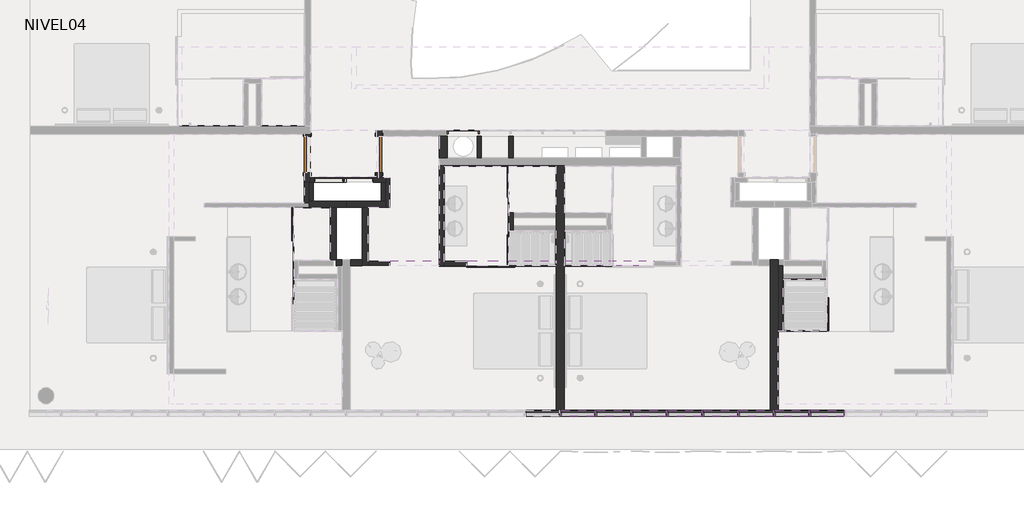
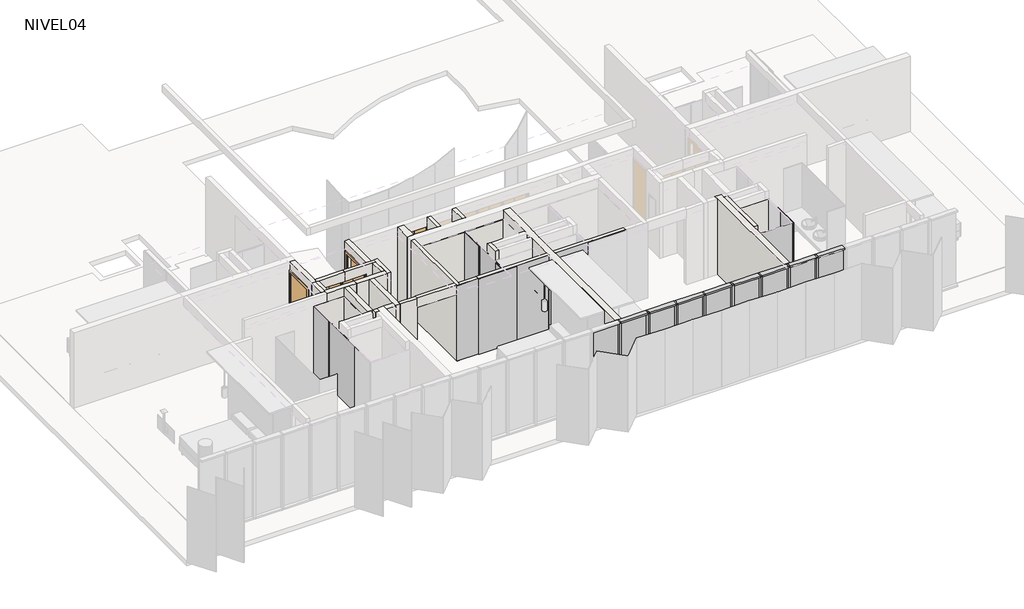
# One storey, part 2 of 8: 38 walls, 25 members, 20 plates, 5 doors.
"""IFC4 building model written with IfcOpenShell, lengths in millimetres."""

from ifc_helpers import new_model, si_unit, frame, origin, place, context, project, spatial, polyline, outline, extrude, faceted_brep, transform, mapped, element, save
from components import m_single_flush_910x_224_a4f79d59, m_single_flush_910x_224_d199ccfa, puerta_closet_shaft_75_x_232cm_9b8c6cb1, puerta_closet_shaft_75_x_232cm_f7ce9964, puerta_closet_shaft_80_x_232cm_003f94e8, rectangular_mullion_50_x_150mm_324a6438, rectangular_mullion_50_x_150mm_33c2bde1, panel_corredera_cr_panel_corredera_e449a94a, panel_corredera_cr_panel_corredera_4796692a, panel_corredera_cr_panel_corredera_42e60b83, panel_corredera_cr_panel_corredera_db6cee18, panel_corredera_cr_panel_corredera_0b5135b5, system_panel_cr_shower_b944c943, system_panel_cr_shower_306accba, system_panel_cr_shower_91ed7f58, system_panel_cr_shower_c062e60c, system_panel_cr_shower_685ec66b, system_panel_cr_shower_d0c7b907, system_panel_glazed_6ccc6dc1

model = new_model("IFC4")

# Units and contexts
model_context = context("Model", 3, world=origin())
ifc_project = project(units=[si_unit("LENGTHUNIT", "METRE", prefix="MILLI")], contexts=[model_context])

# Site, building, storey
site = spatial("IfcSite", under=ifc_project)
building = spatial("IfcBuilding", under=site)
storey = spatial("IfcBuildingStorey", under=building, Name="NIVEL04", Elevation=7940.0)

# Doors
placement = place(None, origin())
m_single_flush_910x_224_shape = m_single_flush_910x_224_a4f79d59(model_context)
element("IfcDoor", 1, ObjectType="M_Single-Flush : 910x 224", at=placement, inside=storey, context=model_context, shape_type="MappedRepresentation", body=[
    mapped(m_single_flush_910x_224_shape, transform((-13568.5934748, -883.5860759, 7940.0), x_axis=(0.0, 1.0, 0.0), y_axis=(-1.0, 0.0, 0.0), z_axis=(0.0, 0.0, 1.0))),
])
m_single_flush_910x_224_2_shape = m_single_flush_910x_224_d199ccfa(model_context)
element("IfcDoor", 2, ObjectType="M_Single-Flush : 910x 224", at=placement, inside=storey, context=model_context, shape_type="MappedRepresentation", body=[
    mapped(m_single_flush_910x_224_2_shape, transform((-11758.5934748, -883.5860759, 7940.0), x_axis=(0.0, 1.0, 0.0), y_axis=(-1.0, 0.0, 0.0), z_axis=(0.0, 0.0, 1.0))),
])
puerta_closet_shaft_75_x_232cm_shape = puerta_closet_shaft_75_x_232cm_9b8c6cb1(model_context)
element("IfcDoor", 3, ObjectType="PUERTA CLOSET SHAFT : 75 x 232cm", at=placement, inside=storey, context=model_context, shape_type="MappedRepresentation", body=[
    mapped(puerta_closet_shaft_75_x_232cm_shape, transform((-11887.061904, -1521.0860759, 7940.0), x_axis=(1.0, 0.0, 0.0), y_axis=(0.0, 1.0, 0.0), z_axis=(0.0, 0.0, 1.0))),
])
puerta_closet_shaft_75_x_232cm_2_shape = puerta_closet_shaft_75_x_232cm_f7ce9964(model_context)
element("IfcDoor", 4, ObjectType="PUERTA CLOSET SHAFT : 75 x 232cm", at=placement, inside=storey, context=model_context, shape_type="MappedRepresentation", body=[
    mapped(puerta_closet_shaft_75_x_232cm_2_shape, transform((-13420.1250457, -1521.0860759, 7940.0), x_axis=(-1.0, 0.0, 0.0), y_axis=(0.0, -1.0, 0.0), z_axis=(0.0, 0.0, 1.0))),
])
puerta_closet_shaft_80_x_232cm_shape = puerta_closet_shaft_80_x_232cm_003f94e8(model_context)
element("IfcDoor", 5, ObjectType="PUERTA CLOSET SHAFT : 80 x 232cm", at=placement, inside=storey, context=model_context, shape_type="MappedRepresentation", body=[
    mapped(puerta_closet_shaft_80_x_232cm_shape, transform((-8492.061904, -341.0860759, 7940.0), x_axis=(1.0, 0.0, 0.0), y_axis=(0.0, 1.0, 0.0), z_axis=(0.0, 0.0, 1.0))),
])

# Members
rectangular_mullion_50_x_150mm_shape = rectangular_mullion_50_x_150mm_324a6438(model_context)
element("IfcMember", 6, ObjectType="Rectangular Mullion : 50 x 150mm", at=placement, inside=storey, context=model_context, shape_type="MappedRepresentation", body=[
    mapped(rectangular_mullion_50_x_150mm_shape, transform((-858.5934748, -7416.0860759, 10490.0), x_axis=(0.0, 0.0, 1.0), y_axis=(0.0, 1.0, 0.0), z_axis=(-1.0, 0.0, 0.0))),
])
element("IfcMember", 7, ObjectType="Rectangular Mullion : 50 x 150mm", at=placement, inside=storey, context=model_context, shape_type="MappedRepresentation", body=[
    mapped(rectangular_mullion_50_x_150mm_shape, transform((-1758.5934748, -7416.0860759, 10490.0), x_axis=(0.0, 0.0, 1.0), y_axis=(0.0, 1.0, 0.0), z_axis=(-1.0, 0.0, 0.0))),
])
element("IfcMember", 8, ObjectType="Rectangular Mullion : 50 x 150mm", at=placement, inside=storey, context=model_context, shape_type="MappedRepresentation", body=[
    mapped(rectangular_mullion_50_x_150mm_shape, transform((-2658.5934748, -7416.0860759, 10490.0), x_axis=(0.0, 0.0, 1.0), y_axis=(0.0, 1.0, 0.0), z_axis=(-1.0, 0.0, 0.0))),
])
element("IfcMember", 9, ObjectType="Rectangular Mullion : 50 x 150mm", at=placement, inside=storey, context=model_context, shape_type="MappedRepresentation", body=[
    mapped(rectangular_mullion_50_x_150mm_shape, transform((-3558.5934748, -7416.0860759, 10490.0), x_axis=(0.0, 0.0, 1.0), y_axis=(0.0, 1.0, 0.0), z_axis=(-1.0, 0.0, 0.0))),
])
element("IfcMember", 10, ObjectType="Rectangular Mullion : 50 x 150mm", at=placement, inside=storey, context=model_context, shape_type="MappedRepresentation", body=[
    mapped(rectangular_mullion_50_x_150mm_shape, transform((-4458.5934748, -7416.0860759, 10490.0), x_axis=(0.0, 0.0, 1.0), y_axis=(0.0, 1.0, 0.0), z_axis=(-1.0, 0.0, 0.0))),
])
element("IfcMember", 11, ObjectType="Rectangular Mullion : 50 x 150mm", at=placement, inside=storey, context=model_context, shape_type="MappedRepresentation", body=[
    mapped(rectangular_mullion_50_x_150mm_shape, transform((-5358.5934748, -7416.0860759, 10490.0), x_axis=(0.0, 0.0, 1.0), y_axis=(0.0, 1.0, 0.0), z_axis=(-1.0, 0.0, 0.0))),
])
element("IfcMember", 12, ObjectType="Rectangular Mullion : 50 x 150mm", at=placement, inside=storey, context=model_context, shape_type="MappedRepresentation", body=[
    mapped(rectangular_mullion_50_x_150mm_shape, transform((-6258.5934748, -7416.0860759, 10490.0), x_axis=(0.0, 0.0, 1.0), y_axis=(0.0, 1.0, 0.0), z_axis=(-1.0, 0.0, 0.0))),
])
element("IfcMember", 13, ObjectType="Rectangular Mullion : 50 x 150mm", at=placement, inside=storey, context=model_context, shape_type="MappedRepresentation", body=[
    mapped(rectangular_mullion_50_x_150mm_shape, transform((-7158.5934748, -7416.0860759, 10490.0), x_axis=(0.0, 0.0, 1.0), y_axis=(0.0, 1.0, 0.0), z_axis=(-1.0, 0.0, 0.0))),
])
element("IfcMember", 14, ObjectType="Rectangular Mullion : 50 x 150mm", at=placement, inside=storey, context=model_context, shape_type="MappedRepresentation", body=[
    mapped(rectangular_mullion_50_x_150mm_shape, transform((-8.5934748, -7416.0860759, 7920.0), x_axis=(0.0, 0.0, -1.0), y_axis=(0.0, 1.0, 0.0), z_axis=(1.0, 0.0, 0.0))),
])
element("IfcMember", 15, ObjectType="Rectangular Mullion : 50 x 150mm", at=placement, inside=storey, context=model_context, shape_type="MappedRepresentation", body=[
    mapped(rectangular_mullion_50_x_150mm_shape, transform((-908.5934748, -7416.0860759, 7920.0), x_axis=(0.0, 0.0, -1.0), y_axis=(0.0, 1.0, 0.0), z_axis=(1.0, 0.0, 0.0))),
])
element("IfcMember", 16, ObjectType="Rectangular Mullion : 50 x 150mm", at=placement, inside=storey, context=model_context, shape_type="MappedRepresentation", body=[
    mapped(rectangular_mullion_50_x_150mm_shape, transform((-1808.5934748, -7416.0860759, 7920.0), x_axis=(0.0, 0.0, -1.0), y_axis=(0.0, 1.0, 0.0), z_axis=(1.0, 0.0, 0.0))),
])
element("IfcMember", 17, ObjectType="Rectangular Mullion : 50 x 150mm", at=placement, inside=storey, context=model_context, shape_type="MappedRepresentation", body=[
    mapped(rectangular_mullion_50_x_150mm_shape, transform((-2708.5934748, -7416.0860759, 7920.0), x_axis=(0.0, 0.0, -1.0), y_axis=(0.0, 1.0, 0.0), z_axis=(1.0, 0.0, 0.0))),
])
element("IfcMember", 18, ObjectType="Rectangular Mullion : 50 x 150mm", at=placement, inside=storey, context=model_context, shape_type="MappedRepresentation", body=[
    mapped(rectangular_mullion_50_x_150mm_shape, transform((-3608.5934748, -7416.0860759, 7920.0), x_axis=(0.0, 0.0, -1.0), y_axis=(0.0, 1.0, 0.0), z_axis=(1.0, 0.0, 0.0))),
])
element("IfcMember", 19, ObjectType="Rectangular Mullion : 50 x 150mm", at=placement, inside=storey, context=model_context, shape_type="MappedRepresentation", body=[
    mapped(rectangular_mullion_50_x_150mm_shape, transform((-4508.5934748, -7416.0860759, 7920.0), x_axis=(0.0, 0.0, -1.0), y_axis=(0.0, 1.0, 0.0), z_axis=(1.0, 0.0, 0.0))),
])
element("IfcMember", 20, ObjectType="Rectangular Mullion : 50 x 150mm", at=placement, inside=storey, context=model_context, shape_type="MappedRepresentation", body=[
    mapped(rectangular_mullion_50_x_150mm_shape, transform((-5408.5934748, -7416.0860759, 7920.0), x_axis=(0.0, 0.0, -1.0), y_axis=(0.0, 1.0, 0.0), z_axis=(1.0, 0.0, 0.0))),
])
element("IfcMember", 21, ObjectType="Rectangular Mullion : 50 x 150mm", at=placement, inside=storey, context=model_context, shape_type="MappedRepresentation", body=[
    mapped(rectangular_mullion_50_x_150mm_shape, transform((-6308.5934748, -7416.0860759, 7920.0), x_axis=(0.0, 0.0, -1.0), y_axis=(0.0, 1.0, 0.0), z_axis=(1.0, 0.0, 0.0))),
])
element("IfcMember", 22, ObjectType="Rectangular Mullion : 50 x 150mm", at=placement, inside=storey, context=model_context, shape_type="MappedRepresentation", body=[
    mapped(rectangular_mullion_50_x_150mm_shape, transform((-7208.5934748, -7416.0860759, 7920.0), x_axis=(0.0, 0.0, -1.0), y_axis=(0.0, 1.0, 0.0), z_axis=(1.0, 0.0, 0.0))),
])
rectangular_mullion_50_x_150mm_2_shape = rectangular_mullion_50_x_150mm_33c2bde1(model_context)
element("IfcMember", 23, ObjectType="Rectangular Mullion : 50 x 150mm", at=placement, inside=storey, context=model_context, shape_type="MappedRepresentation", body=[
    mapped(rectangular_mullion_50_x_150mm_2_shape, transform((-883.5934748, -7416.0860759, 7920.0), x_axis=(-1.0, 0.0, 0.0), y_axis=(0.0, 1.0, 0.0), z_axis=(0.0, 0.0, -1.0))),
])
element("IfcMember", 24, ObjectType="Rectangular Mullion : 50 x 150mm", at=placement, inside=storey, context=model_context, shape_type="MappedRepresentation", body=[
    mapped(rectangular_mullion_50_x_150mm_2_shape, transform((-1783.5934748, -7416.0860759, 7920.0), x_axis=(-1.0, 0.0, 0.0), y_axis=(0.0, 1.0, 0.0), z_axis=(0.0, 0.0, -1.0))),
])
element("IfcMember", 25, ObjectType="Rectangular Mullion : 50 x 150mm", at=placement, inside=storey, context=model_context, shape_type="MappedRepresentation", body=[
    mapped(rectangular_mullion_50_x_150mm_2_shape, transform((-2683.5934748, -7416.0860759, 7920.0), x_axis=(-1.0, 0.0, 0.0), y_axis=(0.0, 1.0, 0.0), z_axis=(0.0, 0.0, -1.0))),
])
element("IfcMember", 26, ObjectType="Rectangular Mullion : 50 x 150mm", at=placement, inside=storey, context=model_context, shape_type="MappedRepresentation", body=[
    mapped(rectangular_mullion_50_x_150mm_2_shape, transform((-3583.5934748, -7416.0860759, 7920.0), x_axis=(-1.0, 0.0, 0.0), y_axis=(0.0, 1.0, 0.0), z_axis=(0.0, 0.0, -1.0))),
])
element("IfcMember", 27, ObjectType="Rectangular Mullion : 50 x 150mm", at=placement, inside=storey, context=model_context, shape_type="MappedRepresentation", body=[
    mapped(rectangular_mullion_50_x_150mm_2_shape, transform((-4483.5934748, -7416.0860759, 7920.0), x_axis=(-1.0, 0.0, 0.0), y_axis=(0.0, 1.0, 0.0), z_axis=(0.0, 0.0, -1.0))),
])
element("IfcMember", 28, ObjectType="Rectangular Mullion : 50 x 150mm", at=placement, inside=storey, context=model_context, shape_type="MappedRepresentation", body=[
    mapped(rectangular_mullion_50_x_150mm_2_shape, transform((-5383.5934748, -7416.0860759, 7920.0), x_axis=(-1.0, 0.0, 0.0), y_axis=(0.0, 1.0, 0.0), z_axis=(0.0, 0.0, -1.0))),
])
element("IfcMember", 29, ObjectType="Rectangular Mullion : 50 x 150mm", at=placement, inside=storey, context=model_context, shape_type="MappedRepresentation", body=[
    mapped(rectangular_mullion_50_x_150mm_2_shape, transform((-6283.5934748, -7416.0860759, 7920.0), x_axis=(-1.0, 0.0, 0.0), y_axis=(0.0, 1.0, 0.0), z_axis=(0.0, 0.0, -1.0))),
])
element("IfcMember", 30, ObjectType="Rectangular Mullion : 50 x 150mm", at=placement, inside=storey, context=model_context, shape_type="MappedRepresentation", body=[
    mapped(rectangular_mullion_50_x_150mm_2_shape, transform((-7183.5934748, -7416.0860759, 7920.0), x_axis=(-1.0, 0.0, 0.0), y_axis=(0.0, 1.0, 0.0), z_axis=(0.0, 0.0, -1.0))),
])

# Plates
panel_corredera_cr_panel_corredera_shape = panel_corredera_cr_panel_corredera_e449a94a(model_context)
element("IfcPlate", 31, ObjectType="PANEL CORREDERA : CR_PANEL CORREDERA", at=placement, inside=storey, context=model_context, shape_type="MappedRepresentation", body=[
    mapped(panel_corredera_cr_panel_corredera_shape, transform((-13913.6434748, -2560.8259695, 7940.0), x_axis=(0.0, -1.0, 0.0), y_axis=(1.0, 0.0, 0.0), z_axis=(0.0, 0.0, 1.0))),
])
panel_corredera_cr_panel_corredera_2_shape = panel_corredera_cr_panel_corredera_4796692a(model_context)
element("IfcPlate", 32, ObjectType="PANEL CORREDERA : CR_PANEL CORREDERA", at=placement, inside=storey, context=model_context, shape_type="MappedRepresentation", body=[
    mapped(panel_corredera_cr_panel_corredera_2_shape, transform((-8483.5947993, -3371.0862189, 7940.0), x_axis=(0.0, 1.0, 0.0), y_axis=(-1.0, 0.0, 0.0), z_axis=(0.0, 0.0, 1.0))),
])
panel_corredera_cr_panel_corredera_3_shape = panel_corredera_cr_panel_corredera_42e60b83(model_context)
element("IfcPlate", 33, ObjectType="PANEL CORREDERA : CR_PANEL CORREDERA", at=placement, inside=storey, context=model_context, shape_type="MappedRepresentation", body=[
    mapped(panel_corredera_cr_panel_corredera_3_shape, transform((-453.5434748, -4991.5697221, 7940.0), x_axis=(0.0, 1.0, 0.0), y_axis=(-1.0, 0.0, 0.0), z_axis=(0.0, 0.0, 1.0))),
])
panel_corredera_cr_panel_corredera_4_shape = panel_corredera_cr_panel_corredera_db6cee18(model_context)
element("IfcPlate", 34, ObjectType="PANEL CORREDERA : CR_PANEL CORREDERA", at=placement, inside=storey, context=model_context, shape_type="MappedRepresentation", body=[
    mapped(panel_corredera_cr_panel_corredera_4_shape, transform((-8483.5947993, -1491.0860759, 7940.0), x_axis=(0.0, -1.0, 0.0), y_axis=(1.0, 0.0, 0.0), z_axis=(0.0, 0.0, 1.0))),
])
panel_corredera_cr_panel_corredera_5_shape = panel_corredera_cr_panel_corredera_0b5135b5(model_context)
element("IfcPlate", 35, ObjectType="PANEL CORREDERA : CR_PANEL CORREDERA", at=placement, inside=storey, context=model_context, shape_type="MappedRepresentation", body=[
    mapped(panel_corredera_cr_panel_corredera_5_shape, transform((-9013.5934748, -3686.0862189, 7940.0), x_axis=(1.0, 0.0, 0.0), y_axis=(0.0, 1.0, 0.0), z_axis=(0.0, 0.0, 1.0))),
])
system_panel_cr_shower_shape = system_panel_cr_shower_b944c943(model_context)
element("IfcPlate", 36, ObjectType="System Panel : CR-SHOWER", at=placement, inside=storey, context=model_context, shape_type="MappedRepresentation", body=[
    mapped(system_panel_cr_shower_shape, transform((-1068.5684748, -5336.1362189, 7940.0), x_axis=(1.0, 0.0, 0.0), y_axis=(0.0, 1.0, 0.0), z_axis=(0.0, 0.0, 1.0))),
])
system_panel_cr_shower_2_shape = system_panel_cr_shower_306accba(model_context)
element("IfcPlate", 37, ObjectType="System Panel : CR-SHOWER", at=placement, inside=storey, context=model_context, shape_type="MappedRepresentation", body=[
    mapped(system_panel_cr_shower_2_shape, transform((-9888.5934748, -3686.0862189, 7940.0), x_axis=(-1.0, 0.0, 0.0), y_axis=(0.0, -1.0, 0.0), z_axis=(0.0, 0.0, 1.0))),
])
system_panel_cr_shower_3_shape = system_panel_cr_shower_91ed7f58(model_context)
element("IfcPlate", 38, ObjectType="System Panel : CR-SHOWER", at=placement, inside=storey, context=model_context, shape_type="MappedRepresentation", body=[
    mapped(system_panel_cr_shower_3_shape, transform((-13913.6434748, -3776.2845441, 7940.0), x_axis=(0.0, 1.0, 0.0), y_axis=(-1.0, 0.0, 0.0), z_axis=(0.0, 0.0, 1.0))),
])
system_panel_cr_shower_4_shape = system_panel_cr_shower_c062e60c(model_context)
element("IfcPlate", 39, ObjectType="System Panel : CR-SHOWER", at=placement, inside=storey, context=model_context, shape_type="MappedRepresentation", body=[
    mapped(system_panel_cr_shower_4_shape, transform((-8483.5947993, -2436.0861474, 7940.0), x_axis=(0.0, 1.0, 0.0), y_axis=(-1.0, 0.0, 0.0), z_axis=(0.0, 0.0, 1.0))),
])
system_panel_cr_shower_5_shape = system_panel_cr_shower_685ec66b(model_context)
element("IfcPlate", 40, ObjectType="System Panel : CR-SHOWER", at=placement, inside=storey, context=model_context, shape_type="MappedRepresentation", body=[
    mapped(system_panel_cr_shower_5_shape, transform((-6483.5934748, -3686.0862189, 7940.0), x_axis=(1.0, 0.0, 0.0), y_axis=(0.0, 1.0, 0.0), z_axis=(0.0, 0.0, 1.0))),
])
system_panel_cr_shower_6_shape = system_panel_cr_shower_d0c7b907(model_context)
element("IfcPlate", 41, ObjectType="System Panel : CR-SHOWER", at=placement, inside=storey, context=model_context, shape_type="MappedRepresentation", body=[
    mapped(system_panel_cr_shower_6_shape, transform((-7883.5934748, -3686.0862189, 7940.0), x_axis=(-1.0, 0.0, 0.0), y_axis=(0.0, -1.0, 0.0), z_axis=(0.0, 0.0, 1.0))),
])
system_panel_glazed_shape = system_panel_glazed_6ccc6dc1(model_context)
element("IfcPlate", 42, ObjectType="System Panel : Glazed", at=placement, inside=storey, context=model_context, shape_type="MappedRepresentation", body=[
    mapped(system_panel_glazed_shape, transform((-433.5934748, -7416.0860759, 7970.0), x_axis=(-1.0, 0.0, 0.0), y_axis=(0.0, -1.0, 0.0), z_axis=(0.0, 0.0, 1.0))),
])
element("IfcPlate", 43, ObjectType="System Panel : Glazed", at=placement, inside=storey, context=model_context, shape_type="MappedRepresentation", body=[
    mapped(system_panel_glazed_shape, transform((-1333.5934748, -7416.0860759, 7970.0), x_axis=(-1.0, 0.0, 0.0), y_axis=(0.0, -1.0, 0.0), z_axis=(0.0, 0.0, 1.0))),
])
element("IfcPlate", 44, ObjectType="System Panel : Glazed", at=placement, inside=storey, context=model_context, shape_type="MappedRepresentation", body=[
    mapped(system_panel_glazed_shape, transform((-2233.5934748, -7416.0860759, 7970.0), x_axis=(-1.0, 0.0, 0.0), y_axis=(0.0, -1.0, 0.0), z_axis=(0.0, 0.0, 1.0))),
])
element("IfcPlate", 45, ObjectType="System Panel : Glazed", at=placement, inside=storey, context=model_context, shape_type="MappedRepresentation", body=[
    mapped(system_panel_glazed_shape, transform((-3133.5934748, -7416.0860759, 7970.0), x_axis=(-1.0, 0.0, 0.0), y_axis=(0.0, -1.0, 0.0), z_axis=(0.0, 0.0, 1.0))),
])
element("IfcPlate", 46, ObjectType="System Panel : Glazed", at=placement, inside=storey, context=model_context, shape_type="MappedRepresentation", body=[
    mapped(system_panel_glazed_shape, transform((-4033.5934748, -7416.0860759, 7970.0), x_axis=(-1.0, 0.0, 0.0), y_axis=(0.0, -1.0, 0.0), z_axis=(0.0, 0.0, 1.0))),
])
element("IfcPlate", 47, ObjectType="System Panel : Glazed", at=placement, inside=storey, context=model_context, shape_type="MappedRepresentation", body=[
    mapped(system_panel_glazed_shape, transform((-4933.5934748, -7416.0860759, 7970.0), x_axis=(-1.0, 0.0, 0.0), y_axis=(0.0, -1.0, 0.0), z_axis=(0.0, 0.0, 1.0))),
])
element("IfcPlate", 48, ObjectType="System Panel : Glazed", at=placement, inside=storey, context=model_context, shape_type="MappedRepresentation", body=[
    mapped(system_panel_glazed_shape, transform((-5833.5934748, -7416.0860759, 7970.0), x_axis=(-1.0, 0.0, 0.0), y_axis=(0.0, -1.0, 0.0), z_axis=(0.0, 0.0, 1.0))),
])
element("IfcPlate", 49, ObjectType="System Panel : Glazed", at=placement, inside=storey, context=model_context, shape_type="MappedRepresentation", body=[
    mapped(system_panel_glazed_shape, transform((-6733.5934748, -7416.0860759, 7970.0), x_axis=(-1.0, 0.0, 0.0), y_axis=(0.0, -1.0, 0.0), z_axis=(0.0, 0.0, 1.0))),
])
element("IfcPlate", 50, ObjectType="System Panel : Glazed", at=placement, inside=storey, context=model_context, shape_type="MappedRepresentation", body=[
    mapped(system_panel_glazed_shape, transform((-7633.5934748, -7416.0860759, 7970.0), x_axis=(-1.0, 0.0, 0.0), y_axis=(0.0, -1.0, 0.0), z_axis=(0.0, 0.0, 1.0))),
])

# Walls
element("IfcWall", 51, ObjectType="SCV.TI.A.110.090.143.47.1", at=placement, inside=storey, context=model_context, shape_type="SweptSolid", body=[
    extrude(outline(polyline([(-9283.5934748, -966.0860759), (-9283.5934748, -416.0860759), (-9173.5934748, -416.0860759), (-9173.5934748, -966.0860759), (-9283.5934748, -966.0860759)])), frame((0.0, 0.0, 7920.0), z_axis=(0.0, 0.0, 1.0), x_axis=(1.0, 0.0, 0.0)), (0.0, 0.0, 1.0), 2570.0),
])
element("IfcWall", 52, ObjectType="REV-PORCELANATO_60*60", at=placement, inside=storey, context=model_context, shape_type="SweptSolid", body=[
    extrude(outline(polyline([(-7083.5934748, -3686.0862189), (-7083.5934748, -2806.0860759), (-7073.5934748, -2806.0860759), (-7073.5934748, -3686.0862189), (-7083.5934748, -3686.0862189)])), frame((0.0, 0.0, 7940.0), z_axis=(0.0, 0.0, 1.0), x_axis=(1.0, 0.0, 0.0)), (0.0, 0.0, 1.0), 2240.0),
])
element("IfcWall", 53, ObjectType="SCV.TI.A.110.090.143.47.1", at=placement, inside=storey, context=model_context, shape_type="SweptSolid", body=[
    extrude(outline(polyline([(-12033.5934748, -3571.0862189), (-11483.5934748, -3571.0862189), (-11483.5934748, -3681.0862189), (-12033.5934748, -3681.0862189), (-12033.5934748, -3571.0862189)])), frame((0.0, 0.0, 7940.0), z_axis=(0.0, 0.0, 1.0), x_axis=(1.0, 0.0, 0.0)), (0.0, 0.0, 1.0), 2550.0),
])
element("IfcWall", 54, ObjectType="SCV.TI.A.110.090.143.47.1", at=placement, inside=storey, context=model_context, shape_type="Brep", body=[
    faceted_brep([(-12589.1569667, -1466.0860759, 10490.0), (-11833.5934748, -1466.0860759, 10490.0), (-11683.5934748, -1466.0860759, 10490.0), (-11593.5934748, -1466.0860759, 10490.0), (-11593.5934748, -1466.0860759, 7940.0), (-11683.5934748, -1466.0860759, 7940.0), (-11833.5934748, -1466.0860759, 7940.0), (-11903.5934748, -1466.0860759, 7940.0), (-11903.5934748, -1466.0860759, 10180.0), (-12589.1569667, -1466.0860759, 10180.0), (-11593.5934748, -1576.0860759, 10490.0), (-11703.5934748, -1576.0860759, 10490.0), (-12589.1569667, -1576.0860759, 10490.0), (-12589.1569667, -1576.0860759, 10180.0), (-11903.5934748, -1576.0860759, 10180.0), (-11903.5934748, -1576.0860759, 7940.0), (-11593.5934748, -1576.0860759, 7940.0)], [[[0, 1, 2, 3, 4, 5, 6, 7, 8, 9]], [[10, 11, 12, 13, 14, 15, 16]], [[4, 16, 15, 7, 6, 5]], [[12, 0, 9, 13]], [[3, 2, 1, 0, 12, 11, 10]], [[8, 14, 13, 9]], [[14, 8, 7, 15]], [[4, 3, 10, 16]]]),
])
element("IfcWall", 55, ObjectType="SCV.TI.A.150.120.212.47.1", at=placement, inside=storey, context=model_context, shape_type="Brep", body=[
    faceted_brep([(-11833.5934748, -1466.0860759, 10490.0), (-11833.5934748, -266.0860759, 10490.0), (-11833.5934748, -266.0860759, 7940.0), (-11833.5934748, -426.0860759, 7940.0), (-11833.5934748, -426.0860759, 10140.0), (-11833.5934748, -1341.0860759, 10140.0), (-11833.5934748, -1341.0860759, 7940.0), (-11833.5934748, -1466.0860759, 7940.0), (-11683.5934748, -266.0860759, 10490.0), (-11683.5934748, -416.0860759, 10490.0), (-11683.5934748, -1466.0860759, 10490.0), (-11683.5934748, -1466.0860759, 7940.0), (-11683.5934748, -1341.0860759, 7940.0), (-11683.5934748, -1341.0860759, 10140.0), (-11683.5934748, -426.0860759, 10140.0), (-11683.5934748, -426.0860759, 7940.0), (-11683.5934748, -266.0860759, 7940.0)], [[[0, 1, 2, 3, 4, 5, 6, 7]], [[8, 9, 10, 11, 12, 13, 14, 15, 16]], [[2, 16, 15, 3]], [[11, 7, 6, 12]], [[1, 0, 10, 9, 8]], [[4, 14, 13, 5]], [[5, 13, 12, 6]], [[14, 4, 3, 15]], [[2, 1, 8, 16]], [[0, 7, 11, 10]]]),
])
element("IfcWall", 56, ObjectType="SCV.TI.A.110.090.143.47.1", at=placement, inside=storey, context=model_context, shape_type="Brep", body=[
    faceted_brep([(-10233.5934748, -1166.0860759, 7920.0), (-10233.5934748, -3686.0862189, 7920.0), (-10233.5934748, -3686.0862189, 10190.0), (-10233.5934748, -3686.0862189, 10490.0), (-10233.5934748, -1166.0860759, 10490.0), (-10123.5934748, -1166.0860759, 7920.0), (-10123.5934748, -1166.0860759, 10490.0), (-10123.5934748, -3576.0862189, 10490.0), (-10123.5934748, -3686.0862189, 10490.0), (-10123.5934748, -3686.0862189, 7940.0), (-10123.5934748, -3686.0862189, 7920.0)], [[[0, 1, 2, 3, 4]], [[5, 6, 7, 8, 9, 10]], [[1, 0, 5, 10]], [[4, 3, 8, 7, 6]], [[0, 4, 6, 5]], [[1, 10, 9, 8, 3, 2]]]),
])
element("IfcWall", 57, ObjectType="SCV.TI.A.150.120.212.47.1", at=placement, inside=storey, context=model_context, shape_type="Brep", body=[
    faceted_brep([(-11593.5934748, -2066.0860759, 7940.0), (-12583.5934748, -2066.0860759, 7940.0), (-12583.5934748, -2066.0860759, 10490.0), (-11593.5934748, -2066.0860759, 10490.0), (-11593.5934748, -2216.0860759, 7940.0), (-11593.5934748, -2216.0860759, 10490.0), (-12033.5934748, -2216.0860759, 10490.0), (-12183.5934748, -2216.0860759, 10490.0), (-12583.5934748, -2216.0860759, 10490.0), (-12583.5934748, -2216.0860759, 7940.0), (-12183.5934748, -2216.0860759, 7940.0), (-12033.5934748, -2216.0860759, 7940.0)], [[[0, 1, 2, 3]], [[4, 5, 6, 7, 8, 9, 10, 11]], [[1, 0, 4, 11, 10, 9]], [[2, 1, 9, 8]], [[3, 2, 8, 7, 6, 5]], [[0, 3, 5, 4]]]),
])
element("IfcWall", 58, ObjectType="SCV.TI.A.110.090.143.47.1", at=placement, inside=storey, context=model_context, shape_type="Brep", body=[
    faceted_brep([(-11593.5934748, -1466.0860759, 7920.0), (-11593.5934748, -2216.0860759, 7920.0), (-11593.5934748, -2216.0860759, 7940.0), (-11593.5934748, -2216.0860759, 10490.0), (-11593.5934748, -2066.0860759, 10490.0), (-11593.5934748, -1576.0860759, 10490.0), (-11593.5934748, -1466.0860759, 10490.0), (-11593.5934748, -1466.0860759, 7940.0), (-11483.5934748, -1466.0860759, 7920.0), (-11483.5934748, -1466.0860759, 10490.0), (-11483.5934748, -2216.0860759, 10490.0), (-11483.5934748, -2216.0860759, 7920.0)], [[[0, 1, 2, 3, 4, 5, 6, 7]], [[8, 9, 10, 11]], [[1, 0, 8, 11]], [[6, 5, 4, 3, 10, 9]], [[3, 2, 1, 11, 10]], [[0, 7, 6, 9, 8]]]),
])
element("IfcWall", 59, ObjectType="SCV.TI.A.120.120.122.46.2", at=placement, inside=storey, context=model_context, shape_type="Brep", body=[
    faceted_brep([(-8363.5047394, -2796.0860759, 7940.0), (-8363.5047394, -2676.0860759, 7940.0), (-8363.5047394, -2476.0860759, 7940.0), (-8363.5047394, -2356.0860759, 7940.0), (-8363.5047394, -2356.0860759, 10490.0), (-8363.5047394, -2476.0860759, 10490.0), (-8363.5047394, -2676.0860759, 10490.0), (-8363.5047394, -2796.0860759, 10490.0), (-8483.5047394, -2796.0860759, 7940.0), (-8483.5047394, -2796.0860759, 10490.0), (-8483.5047394, -2356.0860759, 10490.0), (-8483.5047394, -2356.0860759, 7940.0)], [[[0, 1, 2, 3, 4, 5, 6, 7]], [[8, 9, 10, 11]], [[3, 2, 1, 0, 8, 11]], [[7, 6, 5, 4, 10, 9]], [[4, 3, 11, 10]], [[0, 7, 9, 8]]]),
])
element("IfcWall", 60, ObjectType="SCV.TI.A.110.090.143.47.1", at=placement, inside=storey, context=model_context, shape_type="Brep", body=[
    faceted_brep([(-9543.5934748, -3576.0862189, 7940.0), (-10123.5934748, -3576.0862189, 7940.0), (-10123.5934748, -3576.0862189, 10490.0), (-9543.5934748, -3576.0862189, 10490.0), (-9543.5934748, -3686.0862189, 7940.0), (-9543.5934748, -3686.0862189, 10190.0), (-9543.5934748, -3686.0862189, 10490.0), (-10123.5934748, -3686.0862189, 10490.0), (-10123.5934748, -3686.0862189, 7940.0)], [[[0, 1, 2, 3]], [[4, 5, 6, 7, 8]], [[1, 0, 4, 8]], [[3, 2, 7, 6]], [[0, 3, 6, 5, 4]], [[1, 8, 7, 2]]]),
])
element("IfcWall", 61, ObjectType="REV-PORCELANATO_60*60", at=placement, inside=storey, context=model_context, shape_type="Brep", body=[
    faceted_brep([(-9543.5934748, -3586.0862189, 7940.0), (-10113.5934748, -3586.0862189, 7940.0), (-10123.5934748, -3586.0862189, 7940.0), (-10123.5934748, -3586.0862189, 10180.0), (-10113.5934748, -3586.0862189, 10180.0), (-9543.5934748, -3586.0862189, 10180.0), (-9543.5934748, -3596.0862189, 7940.0), (-9543.5934748, -3596.0862189, 10180.0), (-10123.5934748, -3596.0862189, 10180.0), (-10123.5934748, -3596.0862189, 7940.0)], [[[0, 1, 2, 3, 4, 5]], [[6, 7, 8, 9]], [[2, 1, 0, 6, 9]], [[5, 4, 3, 8, 7]], [[0, 5, 7, 6]], [[3, 2, 9, 8]]]),
])
element("IfcWall", 62, ObjectType="REV-PORCELANATO_60*60", at=placement, inside=storey, context=model_context, shape_type="Brep", body=[
    faceted_brep([(-10113.5934748, -3586.0862189, 7940.0), (-10113.5934748, -1176.0860759, 7940.0), (-10113.5934748, -1166.0860759, 7940.0), (-10113.5934748, -1166.0860759, 10180.0), (-10113.5934748, -1176.0860759, 10180.0), (-10113.5934748, -3586.0862189, 10180.0), (-10123.5934748, -3586.0862189, 7940.0), (-10123.5934748, -3586.0862189, 10180.0), (-10123.5934748, -1166.0860759, 10180.0), (-10123.5934748, -1166.0860759, 7940.0)], [[[0, 1, 2, 3, 4, 5]], [[6, 7, 8, 9]], [[2, 1, 0, 6, 9]], [[5, 4, 3, 8, 7]], [[3, 2, 9, 8]], [[0, 5, 7, 6]]]),
])
element("IfcWall", 63, ObjectType="REV-PORCELANATO_60*60", at=placement, inside=storey, context=model_context, shape_type="Brep", body=[
    faceted_brep([(-10113.5934748, -1176.0860759, 7940.0), (-7293.5934748, -1176.0860759, 7940.0), (-7283.5934748, -1176.0860759, 7940.0), (-7283.5934748, -1176.0860759, 10180.0), (-7293.5934748, -1176.0860759, 10180.0), (-10113.5934748, -1176.0860759, 10180.0), (-10113.5934748, -1166.0860759, 7940.0), (-10113.5934748, -1166.0860759, 10180.0), (-7283.5934748, -1166.0860759, 10180.0), (-7283.5934748, -1166.0860759, 7940.0)], [[[0, 1, 2, 3, 4, 5]], [[6, 7, 8, 9]], [[2, 1, 0, 6, 9]], [[5, 4, 3, 8, 7]], [[3, 2, 9, 8]], [[0, 5, 7, 6]]]),
])
element("IfcWall", 64, ObjectType="REV-PORCELANATO_60*60", at=placement, inside=storey, context=model_context, shape_type="SweptSolid", body=[
    extrude(outline(polyline([(-7293.5934748, -3686.0862189), (-7293.5934748, -2806.0860759), (-7283.5934748, -2806.0860759), (-7283.5934748, -3686.0862189), (-7293.5934748, -3686.0862189)])), frame((0.0, 0.0, 7940.0), z_axis=(0.0, 0.0, 1.0), x_axis=(1.0, 0.0, 0.0)), (0.0, 0.0, 1.0), 2240.0),
])
element("IfcWall", 65, ObjectType="SCV.TI.A.110.090.143.47.1", at=placement, inside=storey, context=model_context, shape_type="Brep", body=[
    faceted_brep([(-13493.5934748, -1576.0860759, 7920.0), (-13423.5934748, -1576.0860759, 7920.0), (-12589.1569667, -1576.0860759, 7920.0), (-12589.1569667, -1576.0860759, 7940.0), (-13403.5934748, -1576.0860759, 7940.0), (-13403.5934748, -1576.0860759, 10180.0), (-12589.1569667, -1576.0860759, 10180.0), (-12589.1569667, -1576.0860759, 10490.0), (-13423.5934748, -1576.0860759, 10490.0), (-13493.5934748, -1576.0860759, 10490.0), (-12589.1569667, -1466.0860759, 7920.0), (-13493.5934748, -1466.0860759, 7920.0), (-13493.5934748, -1466.0860759, 10490.0), (-12589.1569667, -1466.0860759, 10490.0), (-12589.1569667, -1466.0860759, 10180.0), (-13403.5934748, -1466.0860759, 10180.0), (-13403.5934748, -1466.0860759, 7940.0), (-12589.1569667, -1466.0860759, 7940.0)], [[[0, 1, 2, 3, 4, 5, 6, 7, 8, 9]], [[10, 11, 12, 13, 14, 15, 16, 17]], [[2, 1, 0, 11, 10]], [[2, 10, 17, 3]], [[13, 7, 6, 14]], [[9, 8, 7, 13, 12]], [[5, 15, 14, 6]], [[16, 4, 3, 17]], [[4, 16, 15, 5]], [[0, 9, 12, 11]]]),
])
element("IfcWall", 66, ObjectType="SCV.TI.A.150.120.212.47.1", at=placement, inside=storey, context=model_context, shape_type="Brep", body=[
    faceted_brep([(-13643.5934748, -366.0860759, 7920.0), (-13643.5934748, -1576.0860759, 7920.0), (-13643.5934748, -1576.0860759, 10490.0), (-13643.5934748, -366.0860759, 10490.0), (-13643.5934748, -1341.0860759, 7940.0), (-13643.5934748, -426.0860759, 7940.0), (-13643.5934748, -426.0860759, 10140.0), (-13643.5934748, -1341.0860759, 10140.0), (-13493.5934748, -1576.0860759, 7920.0), (-13493.5934748, -1466.0860759, 7920.0), (-13493.5934748, -366.0860759, 7920.0), (-13493.5934748, -366.0860759, 10490.0), (-13493.5934748, -1466.0860759, 10490.0), (-13493.5934748, -1576.0860759, 10490.0), (-13493.5934748, -426.0860759, 7940.0), (-13493.5934748, -1341.0860759, 7940.0), (-13493.5934748, -1341.0860759, 10140.0), (-13493.5934748, -426.0860759, 10140.0), (-13533.5934748, -1576.0860759, 7920.0), (-13533.5934748, -1576.0860759, 10490.0)], [[[0, 1, 2, 3], [4, 5, 6, 7]], [[8, 9, 10, 11, 12, 13], [14, 15, 16, 17]], [[1, 0, 10, 9, 8, 18]], [[3, 2, 19, 13, 12, 11]], [[4, 15, 14, 5]], [[6, 17, 16, 7]], [[15, 4, 7, 16]], [[17, 6, 5, 14]], [[2, 1, 18, 8, 13, 19]], [[0, 3, 11, 10]]]),
])
element("IfcWall", 67, ObjectType="SCV.TI.A.150.120.212.47.1", at=placement, inside=storey, context=model_context, shape_type="Brep", body=[
    faceted_brep([(-13533.5934748, -2216.0860759, 7920.0), (-12983.5934748, -2216.0860759, 7920.0), (-12833.5934748, -2216.0860759, 7920.0), (-12583.5934748, -2216.0860759, 7920.0), (-12583.5934748, -2216.0860759, 10490.0), (-12833.5934748, -2216.0860759, 10490.0), (-12983.5934748, -2216.0860759, 10490.0), (-13533.5934748, -2216.0860759, 10490.0), (-13533.5934748, -2066.0860759, 7920.0), (-13533.5934748, -2066.0860759, 10490.0), (-12583.5934748, -2066.0860759, 10490.0), (-12583.5934748, -2066.0860759, 7920.0), (-13533.5934748, -2106.0860759, 7920.0), (-13533.5934748, -2106.0860759, 10490.0)], [[[0, 1, 2, 3, 4, 5, 6, 7]], [[8, 9, 10, 11]], [[3, 2, 1, 0, 12, 8, 11]], [[4, 3, 11, 10]], [[7, 6, 5, 4, 10, 9, 13]], [[0, 7, 13, 9, 8, 12]]]),
])
element("IfcWall", 68, ObjectType="REV-PORCELANATO_60*60", at=placement, inside=storey, context=model_context, shape_type="Brep", body=[
    faceted_brep([(-1553.5934748, -5336.1362189, 7940.0), (-1553.5934748, -4036.0862189, 7940.0), (-1553.5934748, -4026.0862189, 7940.0), (-1553.5934748, -4026.0862189, 10200.0), (-1553.5934748, -4036.0862189, 10200.0), (-1553.5934748, -5336.1362189, 10200.0), (-1563.5934748, -5336.1362189, 7940.0), (-1563.5934748, -5336.1362189, 10200.0), (-1563.5934748, -4026.0862189, 10200.0), (-1563.5934748, -4026.0862189, 7940.0)], [[[0, 1, 2, 3, 4, 5]], [[6, 7, 8, 9]], [[2, 1, 0, 6, 9]], [[5, 4, 3, 8, 7]], [[0, 5, 7, 6]], [[3, 2, 9, 8]]]),
])
element("IfcWall", 69, ObjectType="REV-PORCELANATO_60*60", at=placement, inside=storey, context=model_context, shape_type="SweptSolid", body=[
    extrude(outline(polyline([(-453.5434748, -4036.0862189), (-1553.5934748, -4036.0862189), (-1553.5934748, -4026.0862189), (-453.5434748, -4026.0862189), (-453.5434748, -4036.0862189)])), frame((0.0, 0.0, 7940.0), z_axis=(0.0, 0.0, 1.0), x_axis=(1.0, 0.0, 0.0)), (0.0, 0.0, 1.0), 2260.0),
])
element("IfcWall", 70, ObjectType="REV-PORCELANATO_60*60", at=placement, inside=storey, context=model_context, shape_type="SweptSolid", body=[
    extrude(outline(polyline([(-13913.6434748, -2216.0860759), (-12993.5934748, -2216.0860759), (-12993.5934748, -2226.0860759), (-13913.6434748, -2226.0860759), (-13913.6434748, -2216.0860759)])), frame((0.0, 0.0, 7940.0), z_axis=(0.0, 0.0, 1.0), x_axis=(1.0, 0.0, 0.0)), (0.0, 0.0, 1.0), 2260.0),
])
element("IfcWall", 71, ObjectType="REV-PORCELANATO_60*60", at=placement, inside=storey, context=model_context, shape_type="Brep", body=[
    faceted_brep([(-12983.5934748, -3556.0862189, 7940.0), (-12983.5934748, -2216.0860759, 7940.0), (-12983.5934748, -2216.0860759, 10200.0), (-12983.5934748, -3556.0862189, 10200.0), (-12993.5934748, -3556.0862189, 7940.0), (-12993.5934748, -3556.0862189, 10200.0), (-12993.5934748, -2226.0860759, 10200.0), (-12993.5934748, -2216.0860759, 10200.0), (-12993.5934748, -2216.0860759, 7940.0), (-12993.5934748, -2226.0860759, 7940.0)], [[[0, 1, 2, 3]], [[4, 5, 6, 7, 8, 9]], [[1, 0, 4, 9, 8]], [[3, 2, 7, 6, 5]], [[2, 1, 8, 7]], [[0, 3, 5, 4]]]),
])
element("IfcWall", 72, ObjectType="SCV.TI.A.110.090.143.47.1", at=placement, inside=storey, context=model_context, shape_type="Brep", body=[
    faceted_brep([(-11703.5934748, -1576.0860759, 7920.0), (-11703.5934748, -2066.0860759, 7920.0), (-11703.5934748, -2066.0860759, 10490.0), (-11703.5934748, -1576.0860759, 10490.0), (-11593.5934748, -1576.0860759, 7920.0), (-11593.5934748, -1576.0860759, 7940.0), (-11593.5934748, -1576.0860759, 10490.0), (-11593.5934748, -2066.0860759, 10490.0), (-11593.5934748, -2066.0860759, 7920.0)], [[[0, 1, 2, 3]], [[4, 5, 6, 7, 8]], [[1, 0, 4, 8]], [[2, 1, 8, 7]], [[3, 2, 7, 6]], [[0, 3, 6, 5, 4]]]),
])
element("IfcWall", 73, ObjectType="SCV.TI.A.110.090.143.47.1", at=placement, inside=storey, context=model_context, shape_type="Brep", body=[
    faceted_brep([(-13643.5934748, -1576.0860759, 7920.0), (-13643.5934748, -2106.0860759, 7920.0), (-13643.5934748, -2106.0860759, 10490.0), (-13643.5934748, -1576.0860759, 10490.0), (-13533.5934748, -1576.0860759, 7920.0), (-13533.5934748, -1576.0860759, 10490.0), (-13533.5934748, -2066.0860759, 10490.0), (-13533.5934748, -2106.0860759, 10490.0), (-13533.5934748, -2106.0860759, 7920.0), (-13533.5934748, -2066.0860759, 7920.0)], [[[0, 1, 2, 3]], [[4, 5, 6, 7, 8, 9]], [[1, 0, 4, 9, 8]], [[3, 2, 7, 6, 5]], [[0, 3, 5, 4]], [[2, 1, 8, 7]]]),
])
element("IfcWall", 74, ObjectType="SCV.TI.A.110.090.143.47.1", at=placement, inside=storey, context=model_context, shape_type="Brep", body=[
    faceted_brep([(-13533.5934748, -1576.0860759, 7920.0), (-13533.5934748, -2113.0860759, 7920.0), (-13533.5934748, -2113.0860759, 10490.0), (-13533.5934748, -1576.0860759, 10490.0), (-13423.5934748, -1576.0860759, 7920.0), (-13423.5934748, -1576.0860759, 10490.0), (-13423.5934748, -2113.0860759, 10490.0), (-13423.5934748, -2113.0860759, 7920.0), (-13493.5934748, -1576.0860759, 7920.0), (-13493.5934748, -1576.0860759, 10490.0)], [[[0, 1, 2, 3]], [[4, 5, 6, 7]], [[1, 0, 8, 4, 7]], [[2, 1, 7, 6]], [[3, 2, 6, 5, 9]], [[0, 3, 9, 5, 4, 8]]]),
])
element("IfcWall", 75, ObjectType="SCV.TI.A.110.090.143.47.1", at=placement, inside=storey, context=model_context, shape_type="SweptSolid", body=[
    extrude(outline(polyline([(-8483.5934748, -966.0860759), (-8483.5934748, -416.0860759), (-8373.5934748, -416.0860759), (-8373.5934748, -966.0860759), (-8483.5934748, -966.0860759)])), frame((0.0, 0.0, 7920.0), z_axis=(0.0, 0.0, 1.0), x_axis=(1.0, 0.0, 0.0)), (0.0, 0.0, 1.0), 2570.0),
])
element("IfcWall", 76, ObjectType="SCV.TI.A.120.120.122.46.2", at=placement, inside=storey, context=model_context, shape_type="Brep", body=[
    faceted_brep([(-1683.5934748, -3686.0862189, 7920.0), (-1683.5934748, -5336.1362189, 7920.0), (-1683.5934748, -5336.1362189, 10490.0), (-1683.5934748, -3686.0862189, 10490.0), (-1563.5934748, -3686.0862189, 7920.0), (-1563.5934748, -3686.0862189, 10490.0), (-1563.5934748, -3906.0862189, 10490.0), (-1563.5934748, -4026.0862189, 10490.0), (-1563.5934748, -5336.1362189, 10490.0), (-1563.5934748, -5336.1362189, 7920.0), (-1563.5934748, -4026.0862189, 7920.0), (-1563.5934748, -3906.0862189, 7920.0)], [[[0, 1, 2, 3]], [[4, 5, 6, 7, 8, 9, 10, 11]], [[1, 0, 4, 11, 10, 9]], [[2, 1, 9, 8]], [[3, 2, 8, 7, 6, 5]], [[0, 3, 5, 4]]]),
])
element("IfcWall", 77, ObjectType="SCV.TI.A.150.120.212.47.1", at=placement, inside=storey, context=model_context, shape_type="SweptSolid", body=[
    extrude(outline(polyline([(-12833.5934748, -2216.0860759), (-12833.5934748, -3536.0862189), (-12983.5934748, -3536.0862189), (-12983.5934748, -2216.0860759), (-12833.5934748, -2216.0860759)])), frame((0.0, 0.0, 7920.0), z_axis=(0.0, 0.0, 1.0), x_axis=(1.0, 0.0, 0.0)), (0.0, 0.0, 1.0), 2570.0),
])
element("IfcWall", 78, ObjectType="SCV.TI.A.150.120.212.47.1", at=placement, inside=storey, context=model_context, shape_type="Brep", body=[
    faceted_brep([(-12833.5934748, -3686.0862189, 7920.0), (-12803.5934748, -3686.0862189, 7920.0), (-12683.5934748, -3686.0862189, 7920.0), (-12683.5934748, -3686.0862189, 10490.0), (-12803.5934748, -3686.0862189, 10490.0), (-12833.5934748, -3686.0862189, 10490.0), (-12833.5934748, -3536.0862189, 7920.0), (-12833.5934748, -3536.0862189, 10490.0), (-12683.5934748, -3536.0862189, 10490.0), (-12683.5934748, -3536.0862189, 7920.0)], [[[0, 1, 2, 3, 4, 5]], [[6, 7, 8, 9]], [[2, 1, 0, 6, 9]], [[3, 2, 9, 8]], [[5, 4, 3, 8, 7]], [[0, 5, 7, 6]]]),
])
element("IfcWall", 79, ObjectType="SCV.TI.A.150.120.212.47.1", at=placement, inside=storey, context=model_context, shape_type="Brep", body=[
    faceted_brep([(-12183.5934748, -2216.0860759, 7940.0), (-12183.5934748, -3536.0862189, 7940.0), (-12183.5934748, -3681.0862189, 7940.0), (-12183.5934748, -3681.0862189, 10490.0), (-12183.5934748, -3536.0862189, 10490.0), (-12183.5934748, -2216.0860759, 10490.0), (-12033.5934748, -2216.0860759, 7940.0), (-12033.5934748, -2216.0860759, 10490.0), (-12033.5934748, -3571.0862189, 10490.0), (-12033.5934748, -3681.0862189, 10490.0), (-12033.5934748, -3681.0862189, 7940.0), (-12033.5934748, -3571.0862189, 7940.0)], [[[0, 1, 2, 3, 4, 5]], [[6, 7, 8, 9, 10, 11]], [[2, 1, 0, 6, 11, 10]], [[5, 4, 3, 9, 8, 7]], [[3, 2, 10, 9]], [[0, 5, 7, 6]]]),
])
element("IfcWall", 80, ObjectType="SCV.TI.A.150.120.212.47.1", at=placement, inside=storey, context=model_context, shape_type="Brep", body=[
    faceted_brep([(-12183.5934748, -3536.0862189, 7940.0), (-12483.5934748, -3536.0862189, 7940.0), (-12483.5934748, -3536.0862189, 10490.0), (-12183.5934748, -3536.0862189, 10490.0), (-12183.5934748, -3686.0862189, 7940.0), (-12183.5934748, -3686.0862189, 10490.0), (-12483.5934748, -3686.0862189, 10490.0), (-12483.5934748, -3686.0862189, 7940.0), (-12183.5934748, -3681.0862189, 7940.0), (-12183.5934748, -3681.0862189, 10490.0)], [[[0, 1, 2, 3]], [[4, 5, 6, 7]], [[1, 0, 8, 4, 7]], [[3, 2, 6, 5, 9]], [[2, 1, 7, 6]], [[0, 3, 9, 5, 4, 8]]]),
])
element("IfcWall", 81, ObjectType="REV-PORCELANATO_60*60", at=placement, inside=storey, context=model_context, shape_type="Brep", body=[
    faceted_brep([(-13643.5934748, -156.0860759, 7960.0), (-14723.5934748, -156.0860759, 7960.0), (-14733.5934748, -156.0860759, 7960.0), (-14733.5934748, -156.0860759, 10200.0), (-14723.5934748, -156.0860759, 10200.0), (-13643.5934748, -156.0860759, 10200.0), (-13643.5934748, -166.0860759, 7960.0), (-13643.5934748, -166.0860759, 10200.0), (-14733.5934748, -166.0860759, 10200.0), (-14733.5934748, -166.0860759, 7960.0)], [[[0, 1, 2, 3, 4, 5]], [[6, 7, 8, 9]], [[2, 1, 0, 6, 9]], [[5, 4, 3, 8, 7]], [[3, 2, 9, 8]], [[0, 5, 7, 6]]]),
])
element("IfcWall", 82, ObjectType="REV-PORCELANATO_60*60", at=placement, inside=storey, context=model_context, shape_type="SweptSolid", body=[
    extrude(outline(polyline([(-16793.5934748, -156.0860759), (-15183.5934748, -156.0860759), (-15183.5934748, -166.0860759), (-16793.5934748, -166.0860759), (-16793.5934748, -156.0860759)])), frame((0.0, 0.0, 7940.0), z_axis=(0.0, 0.0, 1.0), x_axis=(1.0, 0.0, 0.0)), (0.0, 0.0, 1.0), 2260.0),
])
element("IfcWall", 83, ObjectType="HA-200mm", at=placement, inside=storey, context=model_context, shape_type="Brep", body=[
    faceted_brep([(-7283.5934748, -1166.0860759, 7920.0), (-7283.5934748, -7341.0860759, 7920.0), (-7283.5934748, -7341.0860759, 10490.0), (-7283.5934748, -3686.0862189, 10490.0), (-7283.5934748, -3566.0862189, 10490.0), (-7283.5934748, -2796.0860759, 10490.0), (-7283.5934748, -2676.0860759, 10490.0), (-7283.5934748, -2476.0860759, 10490.0), (-7283.5934748, -2356.0860759, 10490.0), (-7283.5934748, -1166.0860759, 10490.0), (-7083.5934748, -1166.0860759, 7920.0), (-7083.5934748, -1166.0860759, 10490.0), (-7083.5934748, -2356.0860759, 10490.0), (-7083.5934748, -2476.0860759, 10490.0), (-7083.5934748, -2676.0860759, 10490.0), (-7083.5934748, -2796.0860759, 10490.0), (-7083.5934748, -3566.0862189, 10490.0), (-7083.5934748, -3686.0862189, 10490.0), (-7083.5934748, -7341.0860759, 10490.0), (-7083.5934748, -7341.0860759, 7920.0)], [[[0, 1, 2, 3, 4, 5, 6, 7, 8, 9]], [[10, 11, 12, 13, 14, 15, 16, 17, 18, 19]], [[1, 0, 10, 19]], [[2, 1, 19, 18]], [[9, 8, 7, 6, 5, 4, 3, 2, 18, 17, 16, 15, 14, 13, 12, 11]], [[0, 9, 11, 10]]]),
])
element("IfcWall", 84, ObjectType="HA-200mm", at=placement, inside=storey, context=model_context, shape_type="Brep", body=[
    faceted_brep([(-1883.5934748, -3536.0862189, 7920.0), (-1883.5934748, -7341.0860759, 7920.0), (-1883.5934748, -7341.0860759, 10490.0), (-1883.5934748, -3686.0862189, 10490.0), (-1883.5934748, -3536.0862189, 10490.0), (-1883.5934748, -3536.0862189, 7940.0), (-1683.5934748, -3536.0862189, 7920.0), (-1683.5934748, -3536.0862189, 10490.0), (-1683.5934748, -7341.0860759, 10490.0), (-1683.5934748, -7341.0860759, 7920.0)], [[[0, 1, 2, 3, 4, 5]], [[6, 7, 8, 9]], [[1, 0, 6, 9]], [[2, 1, 9, 8]], [[4, 3, 2, 8, 7]], [[0, 5, 4, 7, 6]]]),
])
element("IfcWall", 85, ObjectType="HA-200mm", at=placement, inside=storey, context=model_context, shape_type="Brep", body=[
    faceted_brep([(-10033.5934748, -966.0860759, 7920.0), (-10033.5934748, -416.0860759, 7920.0), (-10033.5934748, -416.0860759, 7940.0), (-10033.5934748, -416.0860759, 10160.0), (-10033.5934748, -416.0860759, 10490.0), (-10033.5934748, -966.0860759, 10490.0), (-10233.5934748, -966.0860759, 7920.0), (-10233.5934748, -966.0860759, 10490.0), (-10233.5934748, -416.0860759, 10490.0), (-10233.5934748, -416.0860759, 7920.0)], [[[0, 1, 2, 3, 4, 5]], [[6, 7, 8, 9]], [[1, 0, 6, 9]], [[5, 4, 8, 7]], [[4, 3, 2, 1, 9, 8]], [[0, 5, 7, 6]]]),
])
element("IfcWall", 86, ObjectType="Interior - 120mm Partition (2-hr)", at=placement, inside=storey, context=model_context, shape_type="Brep", body=[
    faceted_brep([(-7083.5934748, -3686.0862189, 10190.0), (-4823.5934748, -3686.0862189, 10190.0), (-4823.5934748, -3686.0862189, 10490.0), (-7083.5934748, -3686.0862189, 10490.0), (-7083.5934748, -3566.0862189, 10190.0), (-7083.5934748, -3566.0862189, 10490.0), (-4823.5934748, -3566.0862189, 10490.0), (-4823.5934748, -3566.0862189, 10190.0), (-4823.5934748, -3576.0862189, 10490.0)], [[[0, 1, 2, 3]], [[4, 5, 6, 7]], [[1, 0, 4, 7]], [[2, 1, 7, 6, 8]], [[3, 2, 8, 6, 5]], [[0, 3, 5, 4]]]),
])
element("IfcWall", 87, ObjectType="Interior - 120mm Partition (2-hr)", at=placement, inside=storey, context=model_context, shape_type="Brep", body=[
    faceted_brep([(-10233.5934748, -3566.0862189, 10190.0), (-11483.5934748, -3566.0862189, 10190.0), (-11483.5934748, -3566.0862189, 10510.0), (-10233.5934748, -3566.0862189, 10510.0), (-10233.5934748, -3686.0862189, 10190.0), (-10233.5934748, -3686.0862189, 10490.0), (-10233.5934748, -3686.0862189, 10510.0), (-11483.5934748, -3686.0862189, 10510.0), (-11483.5934748, -3686.0862189, 10190.0)], [[[0, 1, 2, 3]], [[4, 5, 6, 7, 8]], [[1, 0, 4, 8]], [[2, 1, 8, 7]], [[3, 2, 7, 6]], [[0, 3, 6, 5, 4]]]),
])
element("IfcWall", 88, ObjectType="Interior - 120mm Partition (2-hr)", at=placement, inside=storey, context=model_context, shape_type="Brep", body=[
    faceted_brep([(-9543.5934748, -3566.0862189, 10190.0), (-9543.5934748, -3566.0862189, 10490.0), (-7283.5934748, -3566.0862189, 10490.0), (-7283.5934748, -3566.0862189, 10190.0), (-7293.5934748, -3566.0862189, 10190.0), (-7293.5934748, -3566.0862189, 10245.0), (-8483.5947993, -3566.0862189, 10245.0), (-8483.5947993, -3566.0862189, 10190.0), (-9543.5934748, -3686.0862189, 10490.0), (-9543.5934748, -3686.0862189, 10190.0), (-8483.5947993, -3686.0862189, 10190.0), (-8483.5947993, -3686.0862189, 10245.0), (-7293.5934748, -3686.0862189, 10245.0), (-7293.5934748, -3686.0862189, 10190.0), (-7283.5934748, -3686.0862189, 10190.0), (-7283.5934748, -3686.0862189, 10490.0), (-9543.5934748, -3576.0862189, 10490.0)], [[[0, 1, 2, 3, 4, 5, 6, 7]], [[8, 9, 10, 11, 12, 13, 14, 15]], [[9, 0, 7, 10]], [[3, 14, 13, 4]], [[1, 0, 9, 8, 16]], [[2, 1, 16, 8, 15]], [[3, 2, 15, 14]], [[11, 6, 5, 12]], [[12, 5, 4, 13]], [[6, 11, 10, 7]]]),
])

save(model, "model.ifc")
